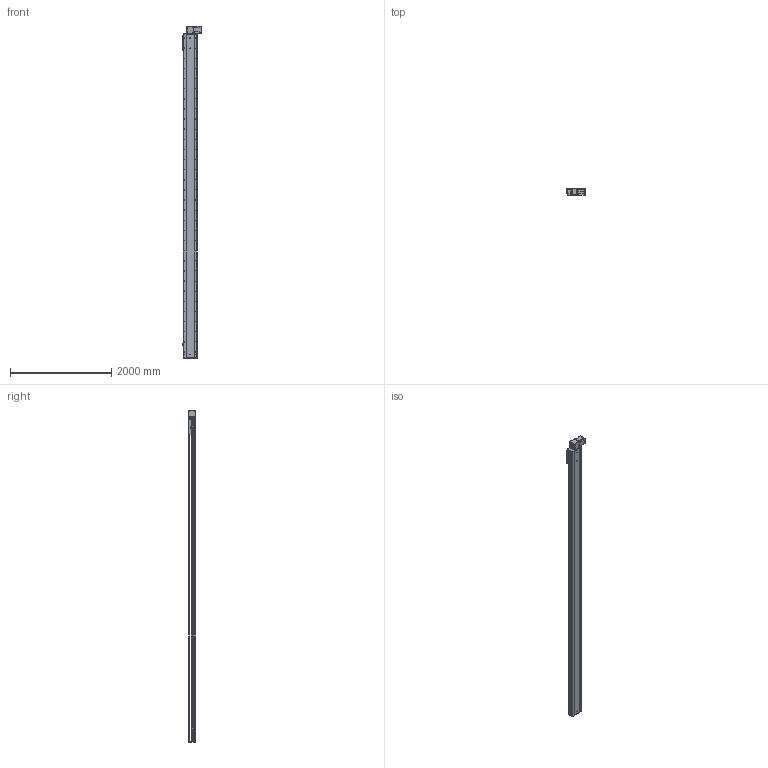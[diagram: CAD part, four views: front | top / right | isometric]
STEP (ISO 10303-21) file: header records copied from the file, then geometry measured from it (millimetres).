
FILE_DESCRIPTION (( 'STEP AP214' ), '1' );
FILE_NAME ('RTB28S-XX-5950-BL-M100-XX-C4.STEP', '2025-12-22T02:59:18', ( '' ), ( '' ), 'SwSTEP 2.0', 'SolidWorks 2018', '' );
FILE_SCHEMA (( 'AUTOMOTIVE_DESIGN' ));
Length unit declared in the file: millimetre
Products named in the file (4): RTB28S-GY-004^RTB28S-XX-XX-BL-M100-XX-C4; RTB28S-GY-011^RTB28S-XX-XX-BL-M100-XX-C4; RTB28S-XX-5950-BL-M100-XX-C4; RTB28S-GY-008^RTB28S-XX-XX-BL-M100-XX-C4
Assembly tree (3 placements, depth 2):
  RTB28S-XX-5950-BL-M100-XX-C4
    RTB28S-GY-011^RTB28S-XX-XX-BL-M100-XX-C4
    RTB28S-GY-004^RTB28S-XX-XX-BL-M100-XX-C4
    RTB28S-GY-008^RTB28S-XX-XX-BL-M100-XX-C4
Bounding box: 380.7 x 145 x 6557 mm (x, y, z)
Volume: 107561299.7 mm3; surface area: 9897206.1 mm2
Topology: 3 solids, 4 shells, 1038 faces, 2838 edges, 1828 vertices
Faces by surface type: cylinder 559, plane 395, cone 80, torus 4
Entity records: 41663 total; most frequent: CARTESIAN_POINT 8752, DIRECTION 6072, ORIENTED_EDGE 5612, EDGE_CURVE 2806, AXIS2_PLACEMENT_3D 2296, VERTEX_POINT 1828, VECTOR 1480, LINE 1480
